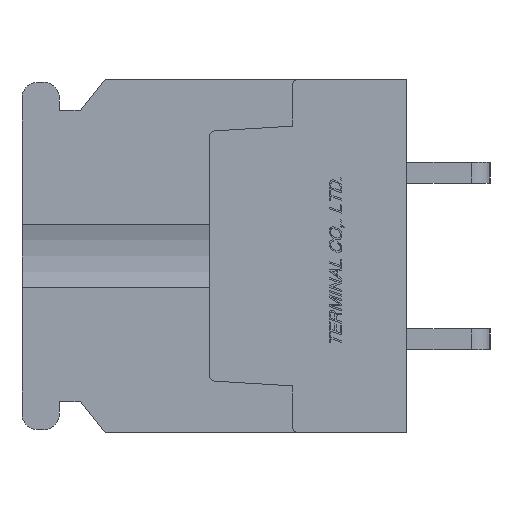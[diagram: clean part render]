
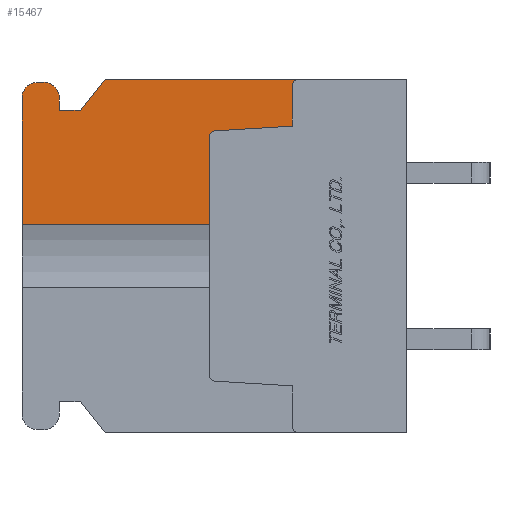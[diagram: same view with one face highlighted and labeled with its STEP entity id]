
A CAD part, left-side view. The second image highlights one B-rep face of the part: STEP entity #15467.
In plain terms, the highlighted planar face has unit normal (-1, 0, 0).
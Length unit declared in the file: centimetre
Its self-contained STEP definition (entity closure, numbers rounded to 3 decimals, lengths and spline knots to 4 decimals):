
#340=CIRCLE('',#26355,0.03);
#341=CIRCLE('',#26359,0.03);
#342=CIRCLE('',#26361,0.075);
#343=CIRCLE('',#26362,0.075);
#1360=VERTEX_POINT('',#21729);
#1361=VERTEX_POINT('',#21731);
#1362=VERTEX_POINT('',#21735);
#1363=VERTEX_POINT('',#21739);
#1364=VERTEX_POINT('',#21743);
#1365=VERTEX_POINT('',#21747);
#1366=VERTEX_POINT('',#21749);
#1367=VERTEX_POINT('',#21751);
#1368=VERTEX_POINT('',#21753);
#1369=VERTEX_POINT('',#21755);
#1370=VERTEX_POINT('',#21757);
#1371=VERTEX_POINT('',#21759);
#1372=VERTEX_POINT('',#21761);
#1373=VERTEX_POINT('',#21763);
#3028=VECTOR('',#17313,1.);
#3030=VECTOR('',#17316,1.);
#3032=VECTOR('',#17323,1.);
#3033=VECTOR('',#17324,1.);
#3034=VECTOR('',#17325,1.);
#3035=VECTOR('',#17326,1.);
#3036=VECTOR('',#17327,1.);
#3037=VECTOR('',#17330,1.);
#3038=VECTOR('',#17333,1.);
#3039=VECTOR('',#17334,1.);
#4756=LINE('',#21736,#3028);
#4758=LINE('',#21740,#3030);
#4760=LINE('',#21746,#3032);
#4761=LINE('',#21748,#3033);
#4762=LINE('',#21750,#3034);
#4763=LINE('',#21752,#3035);
#4764=LINE('',#21754,#3036);
#4765=LINE('',#21758,#3037);
#4766=LINE('',#21762,#3038);
#4767=LINE('',#21764,#3039);
#6592=EDGE_CURVE('',#1361,#1360,#340,.T.);
#6595=EDGE_CURVE('',#1360,#1362,#4756,.T.);
#6597=EDGE_CURVE('',#1362,#1363,#4758,.T.);
#6599=EDGE_CURVE('',#1363,#1364,#341,.T.);
#6600=EDGE_CURVE('',#1365,#1361,#4760,.T.);
#6601=EDGE_CURVE('',#1366,#1364,#4761,.T.);
#6602=EDGE_CURVE('',#1367,#1366,#4762,.T.);
#6603=EDGE_CURVE('',#1368,#1367,#4763,.T.);
#6604=EDGE_CURVE('',#1369,#1368,#4764,.T.);
#6605=EDGE_CURVE('',#1370,#1369,#342,.T.);
#6606=EDGE_CURVE('',#1371,#1370,#4765,.T.);
#6607=EDGE_CURVE('',#1372,#1371,#343,.T.);
#6608=EDGE_CURVE('',#1373,#1372,#4766,.T.);
#6609=EDGE_CURVE('',#1373,#1365,#4767,.T.);
#9509=ORIENTED_EDGE('',*,*,#6600,.T.);
#9510=ORIENTED_EDGE('',*,*,#6592,.T.);
#9511=ORIENTED_EDGE('',*,*,#6595,.T.);
#9512=ORIENTED_EDGE('',*,*,#6597,.T.);
#9513=ORIENTED_EDGE('',*,*,#6599,.T.);
#9514=ORIENTED_EDGE('',*,*,#6601,.F.);
#9515=ORIENTED_EDGE('',*,*,#6602,.F.);
#9516=ORIENTED_EDGE('',*,*,#6603,.F.);
#9517=ORIENTED_EDGE('',*,*,#6604,.F.);
#9518=ORIENTED_EDGE('',*,*,#6605,.F.);
#9519=ORIENTED_EDGE('',*,*,#6606,.F.);
#9520=ORIENTED_EDGE('',*,*,#6607,.F.);
#9521=ORIENTED_EDGE('',*,*,#6608,.F.);
#9522=ORIENTED_EDGE('',*,*,#6609,.T.);
#13511=EDGE_LOOP('',(#9509,#9510,#9511,#9512,#9513,#9514,#9515,#9516,#9517,
#9518,#9519,#9520,#9521,#9522));
#14499=FACE_BOUND('',#13511,.T.);
#15467=ADVANCED_FACE('',(#14499),#16295,.F.);
#16295=PLANE('',#26360);
#17308=DIRECTION('',(1.,0.,0.));
#17309=DIRECTION('',(0.,0.,0.03));
#17313=DIRECTION('',(0.,-0.998,0.061));
#17316=DIRECTION('',(0.,0.,1.));
#17320=DIRECTION('',(1.,0.,0.));
#17321=DIRECTION('',(0.,0.,0.03));
#17322=DIRECTION('',(1.,0.,0.));
#17323=DIRECTION('',(0.,0.,1.));
#17324=DIRECTION('',(0.,-1.,0.));
#17325=DIRECTION('',(0.,-0.625,0.781));
#17326=DIRECTION('',(0.,-1.,0.));
#17327=DIRECTION('',(0.,0.,-1.));
#17328=DIRECTION('',(1.,0.,0.));
#17329=DIRECTION('',(0.,0.,-0.075));
#17330=DIRECTION('',(0.,-1.,0.));
#17331=DIRECTION('',(1.,0.,0.));
#17332=DIRECTION('',(0.,0.,-0.075));
#17333=DIRECTION('',(0.,0.,1.));
#17334=DIRECTION('',(0.,-1.,0.));
#21729=CARTESIAN_POINT('',(-1.1,0.9218,0.6017));
#21730=CARTESIAN_POINT('',(-1.1,0.92,0.5718));
#21731=CARTESIAN_POINT('',(-1.1,0.95,0.5718));
#21735=CARTESIAN_POINT('',(-1.1,0.55,0.6245));
#21736=CARTESIAN_POINT('',(-1.1,0.859,0.6056));
#21739=CARTESIAN_POINT('',(-1.1,0.55,0.82));
#21740=CARTESIAN_POINT('',(-1.1,0.55,0.3611));
#21743=CARTESIAN_POINT('',(-1.1,0.52,0.85));
#21744=CARTESIAN_POINT('',(-1.1,0.52,0.82));
#21745=CARTESIAN_POINT('',(-1.1,0.9454,0.));
#21746=CARTESIAN_POINT('',(-1.1,0.95,0.));
#21747=CARTESIAN_POINT('',(-1.1,0.95,0.1521));
#21748=CARTESIAN_POINT('',(-1.1,1.45,0.85));
#21749=CARTESIAN_POINT('',(-1.1,1.45,0.85));
#21750=CARTESIAN_POINT('',(-1.1,1.57,0.7));
#21751=CARTESIAN_POINT('',(-1.1,1.57,0.7));
#21752=CARTESIAN_POINT('',(-1.1,1.67,0.7));
#21753=CARTESIAN_POINT('',(-1.1,1.67,0.7));
#21754=CARTESIAN_POINT('',(-1.1,1.67,0.76));
#21755=CARTESIAN_POINT('',(-1.1,1.67,0.76));
#21756=CARTESIAN_POINT('',(-1.1,1.745,0.76));
#21757=CARTESIAN_POINT('',(-1.1,1.745,0.835));
#21758=CARTESIAN_POINT('',(-1.1,1.775,0.835));
#21759=CARTESIAN_POINT('',(-1.1,1.775,0.835));
#21760=CARTESIAN_POINT('',(-1.1,1.775,0.76));
#21761=CARTESIAN_POINT('',(-1.1,1.85,0.76));
#21762=CARTESIAN_POINT('',(-1.1,1.85,-0.76));
#21763=CARTESIAN_POINT('',(-1.1,1.85,0.1521));
#21764=CARTESIAN_POINT('',(-1.1,1.4,0.1521));
#26355=AXIS2_PLACEMENT_3D('',#21730,#17308,#17309);
#26359=AXIS2_PLACEMENT_3D('',#21744,#17320,#17321);
#26360=AXIS2_PLACEMENT_3D('',#21745,#17322,$);
#26361=AXIS2_PLACEMENT_3D('',#21756,#17328,#17329);
#26362=AXIS2_PLACEMENT_3D('',#21760,#17331,#17332);
